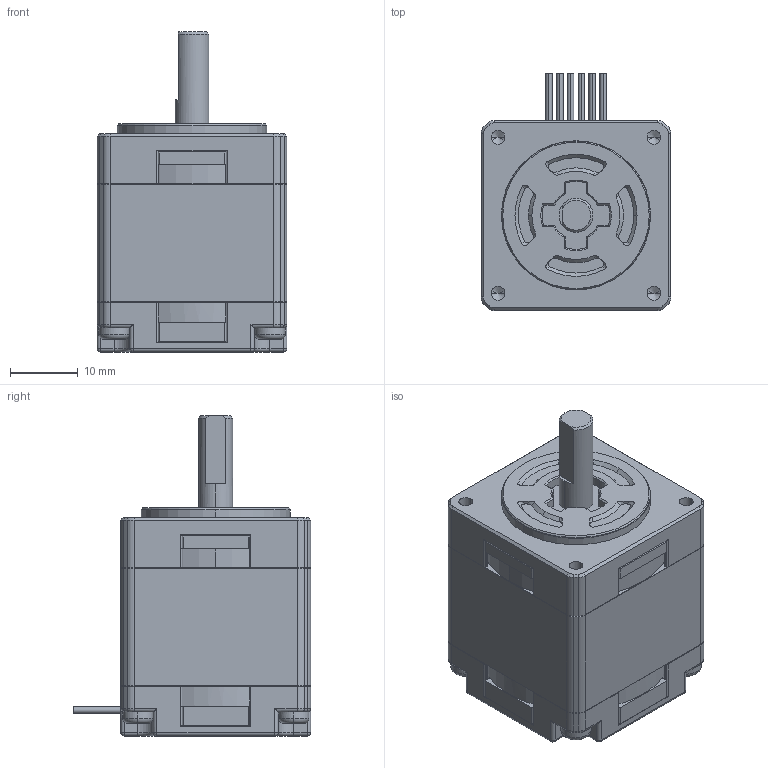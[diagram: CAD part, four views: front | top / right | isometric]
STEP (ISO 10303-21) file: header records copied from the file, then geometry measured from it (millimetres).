
FILE_DESCRIPTION (( 'STEP AP203' ), '1' );
FILE_NAME ('SH2281-5271.STEP', '2012-06-19T08:51:56', ( 'sanyodenki-admin' ), ( '' ), 'SwSTEP 2.0', 'SolidWorks 2011', '' );
FILE_SCHEMA (( 'CONFIG_CONTROL_DESIGN' ));
Length unit declared in the file: millimetre
Products named in the file (1): SH2281-5271
Bounding box: 28 x 35 x 47.2 mm (x, y, z)
Volume: 25221.8 mm3; surface area: 8196.4 mm2
Topology: 1 solids, 1 shells, 638 faces, 1700 edges, 1018 vertices
Faces by surface type: plane 246, cylinder 245, cone 77, torus 38, sphere 16, bspline 16
Entity records: 20084 total; most frequent: CARTESIAN_POINT 4019, DIRECTION 3493, ORIENTED_EDGE 3352, EDGE_CURVE 1676, AXIS2_PLACEMENT_3D 1300, VERTEX_POINT 1018, VECTOR 893, LINE 893
